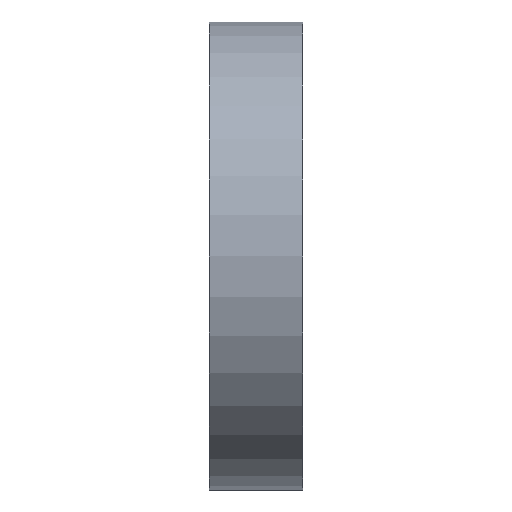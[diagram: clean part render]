
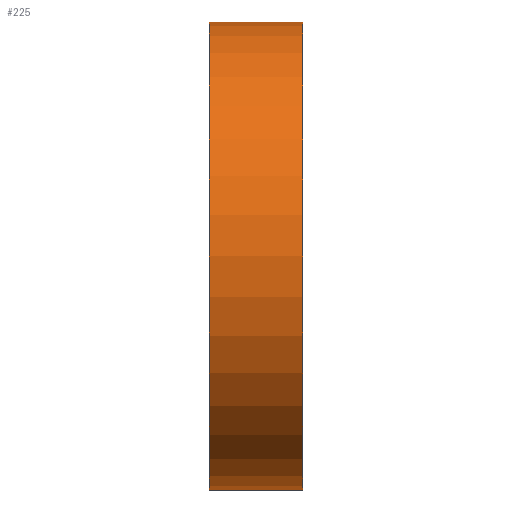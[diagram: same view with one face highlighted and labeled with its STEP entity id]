
A CAD part, front view. The second image highlights one B-rep face of the part: STEP entity #225.
In plain terms, the highlighted cylindrical face has radius 25 mm (diameter 50 mm), a full revolution.
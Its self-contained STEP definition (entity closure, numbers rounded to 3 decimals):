
#225 = ADVANCED_FACE( '', ( #499, #500 ), #501, .T. );
#499 = FACE_OUTER_BOUND( '', #818, .T. );
#500 = FACE_OUTER_BOUND( '', #819, .T. );
#501 = CYLINDRICAL_SURFACE( '', #820, 25. );
#818 = EDGE_LOOP( '', ( #1568 ) );
#819 = EDGE_LOOP( '', ( #1569 ) );
#820 = AXIS2_PLACEMENT_3D( '', #1570, #1571, #1572 );
#1568 = ORIENTED_EDGE( '', *, *, #2098, .F. );
#1569 = ORIENTED_EDGE( '', *, *, #2253, .T. );
#1570 = CARTESIAN_POINT( '', ( 5., 0., 0. ) );
#1571 = DIRECTION( '', ( 1., 0., 0. ) );
#1572 = DIRECTION( '', ( 0., 0., 1. ) );
#2098 = EDGE_CURVE( '', #2603, #2603, #2604, .T. );
#2253 = EDGE_CURVE( '', #2859, #2859, #2860, .T. );
#2603 = VERTEX_POINT( '', #3260 );
#2604 = CIRCLE( '', #3261, 25. );
#2859 = VERTEX_POINT( '', #3600 );
#2860 = CIRCLE( '', #3601, 25. );
#3260 = CARTESIAN_POINT( '', ( 5., 0., -25. ) );
#3261 = AXIS2_PLACEMENT_3D( '', #4016, #4017, #4018 );
#3600 = CARTESIAN_POINT( '', ( -5., 0., -25. ) );
#3601 = AXIS2_PLACEMENT_3D( '', #4253, #4254, #4255 );
#4016 = CARTESIAN_POINT( '', ( 5., 0., 0. ) );
#4017 = DIRECTION( '', ( 1., 0., 0. ) );
#4018 = DIRECTION( '', ( 0., 0., -1. ) );
#4253 = CARTESIAN_POINT( '', ( -5., 0., 0. ) );
#4254 = DIRECTION( '', ( 1., 0., 0. ) );
#4255 = DIRECTION( '', ( 0., 0., -1. ) );
